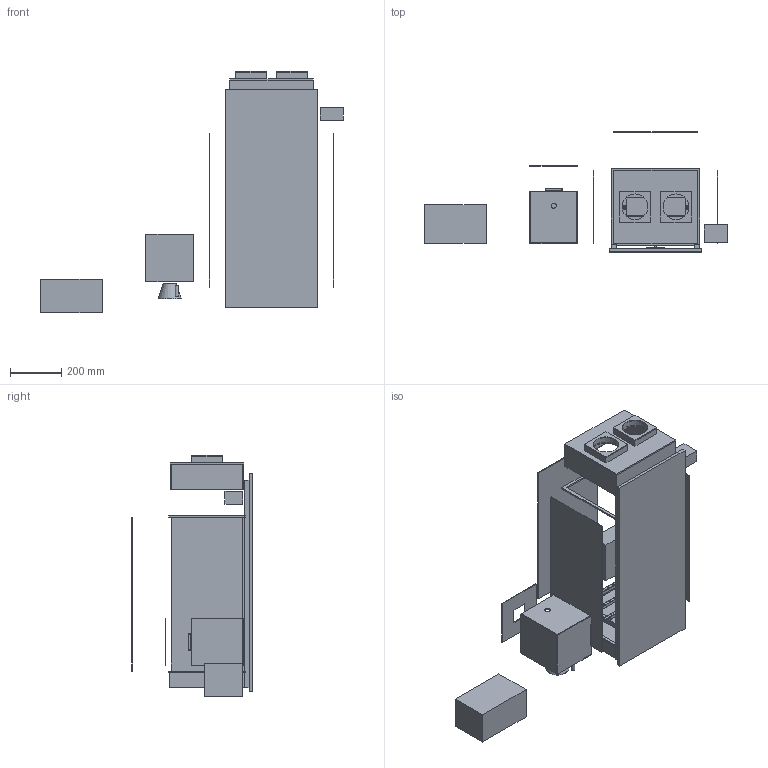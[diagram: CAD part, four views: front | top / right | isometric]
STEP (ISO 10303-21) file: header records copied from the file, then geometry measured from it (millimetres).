
FILE_DESCRIPTION(('Open CASCADE Model'),'2;1');
FILE_NAME('Open CASCADE Shape Model','2026-10-16T19:20:09',('Author'),( 'Open CASCADE'),'Open CASCADE STEP processor 7.8','Open CASCADE 7.8' ,'Unknown');
FILE_SCHEMA(('AUTOMOTIVE_DESIGN { 1 0 10303 214 1 1 1 1 }'));
Length unit declared in the file: millimetre
Products named in the file (46): FN_LAB_v04_exploded; B01; B02; B03; B04; B05; B06; C01; C02; C03; E01; E02; E03; E04; E05; E06; R01; R02; R03; R04; R05; R06; R07; S01; S02; S03; G01; G02; G11; G12; G13; R08; R09; M01; H01; F01; F02; F03; A01; A02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
Assembly tree (45 placements, depth 2):
  FN_LAB_v04_exploded
    B01
    B02
    B03
    B04
    B05
    B06
    C01
    C02
    C03
    E01
    E02
    E03
    E04
    E05
    E06
    R01
    R02
    R03
    R04
    R05
    R06
    R07
    S01
    S02
    S03
    G01
    G02
    G11
    G12
    G13
    R08
    R09
    M01
    H01
    F01
    F02
    F03
    A01
    A02
    A03
    A04
    A05
    D01
    Q01
    K01
Bounding box: 1180 x 469 x 941 mm (x, y, z)
Volume: 20243647 mm3; surface area: 4407186.5 mm2
Topology: 45 solids, 45 shells, 422 faces, 897 edges, 594 vertices
Faces by surface type: plane 351, cylinder 69, cone 2
Full cylindrical faces by diameter (mm): 2 x27, 4 x27, 5 x1, 5.5 x2, 8 x3, 12 x1, 20 x1, 50 x1, 100 x2, 110 x2, 112 x2
Entity records: 24424 total; most frequent: CARTESIAN_POINT 4227, DIRECTION 3685, LINE 2401, VECTOR 2401, ORIENTED_EDGE 1794, PCURVE 1794, DEFINITIONAL_REPRESENTATION 1794, EDGE_CURVE 897
